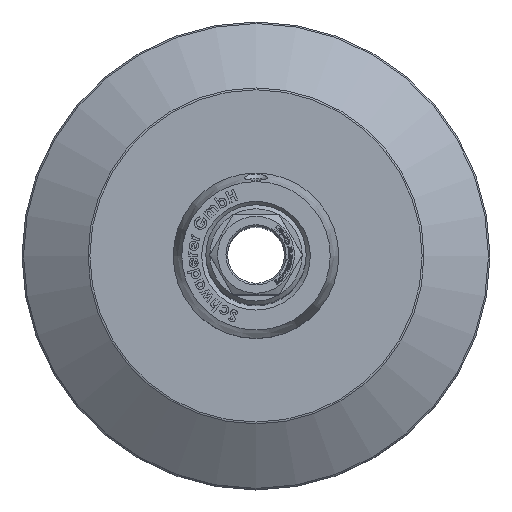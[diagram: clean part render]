
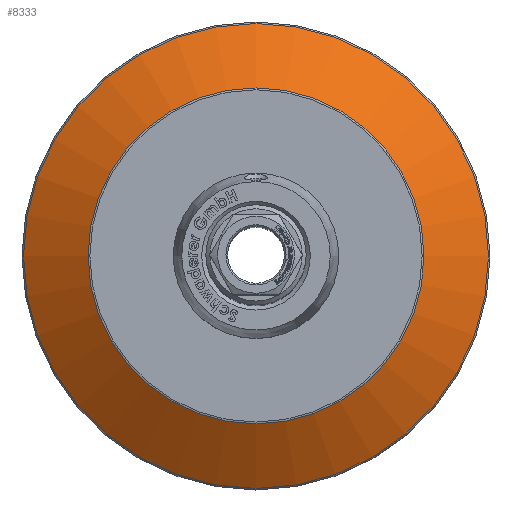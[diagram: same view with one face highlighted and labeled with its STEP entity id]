
A CAD part, top view. The second image highlights one B-rep face of the part: STEP entity #8333.
In plain terms, the highlighted conical face has half-angle 56.976 degrees and reference radius 60 mm.
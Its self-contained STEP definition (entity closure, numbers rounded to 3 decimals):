
#2633=CONICAL_SURFACE('',#8819,60.,56.976);
#2651=FACE_BOUND('',#3217,.T.);
#2736=FACE_OUTER_BOUND('',#3216,.T.);
#3216=EDGE_LOOP('',(#5891));
#3217=EDGE_LOOP('',(#5892));
#3778=CIRCLE('',#8817,50.249);
#3780=CIRCLE('',#8820,69.545);
#3845=VERTEX_POINT('',#10644);
#3847=VERTEX_POINT('',#10649);
#4669=EDGE_CURVE('',#3845,#3845,#3778,.T.);
#4671=EDGE_CURVE('',#3847,#3847,#3780,.T.);
#5891=ORIENTED_EDGE('',*,*,#4671,.F.);
#5892=ORIENTED_EDGE('',*,*,#4669,.F.);
#8333=ADVANCED_FACE('',(#2736,#2651),#2633,.T.);
#8817=AXIS2_PLACEMENT_3D('',#10645,#9178,#9179);
#8819=AXIS2_PLACEMENT_3D('',#10648,#9182,#9183);
#8820=AXIS2_PLACEMENT_3D('',#10650,#9184,#9185);
#9178=DIRECTION('center_axis',(0.,0.,
1.));
#9179=DIRECTION('ref_axis',(-1.,0.,0.));
#9182=DIRECTION('center_axis',(0.,0.,-1.));
#9183=DIRECTION('ref_axis',(1.,0.,0.));
#9184=DIRECTION('center_axis',(0.,0.,
-1.));
#9185=DIRECTION('ref_axis',(-1.,0.,0.));
#10644=CARTESIAN_POINT('',(50.249,0.,-24.029));
#10645=CARTESIAN_POINT('Origin',(0.,0.,-24.029));
#10648=CARTESIAN_POINT('Origin',(0.,0.,-30.367));
#10649=CARTESIAN_POINT('',(69.545,0.,-36.571));
#10650=CARTESIAN_POINT('Origin',(0.,0.,
-36.571));
